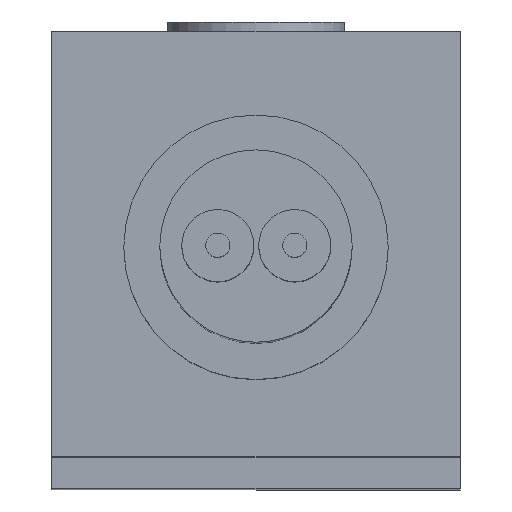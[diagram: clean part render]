
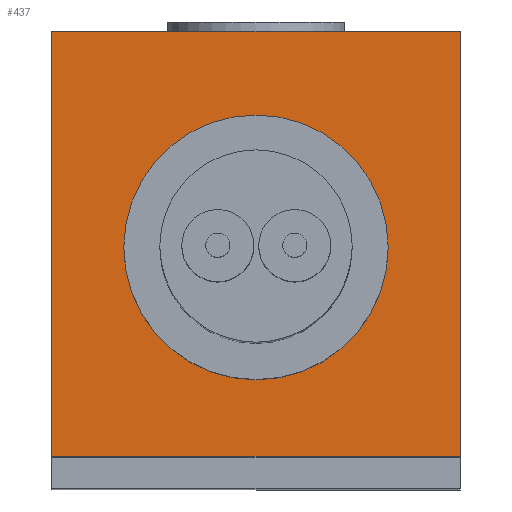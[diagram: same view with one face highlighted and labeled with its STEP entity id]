
A CAD part, top view. The second image highlights one B-rep face of the part: STEP entity #437.
In plain terms, the highlighted planar face has unit normal (0, 0, 1).
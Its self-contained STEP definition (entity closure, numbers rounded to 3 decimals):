
#1 = VERTEX_POINT ( 'NONE', #1093 ) ;
#22 = VECTOR ( 'NONE', #166, 1000. ) ;
#95 = DIRECTION ( 'NONE',  ( -1., 0., 0. ) ) ;
#143 = ORIENTED_EDGE ( 'NONE', *, *, #937, .F. ) ;
#166 = DIRECTION ( 'NONE',  ( 0., 1., 0. ) ) ;
#178 = CARTESIAN_POINT ( 'NONE',  ( 0., 0., -18.5 ) ) ;
#179 = DIRECTION ( 'NONE',  ( -1., 0., 0. ) ) ;
#188 = ORIENTED_EDGE ( 'NONE', *, *, #895, .T. ) ;
#190 = VECTOR ( 'NONE', #497, 1000. ) ;
#210 = EDGE_LOOP ( 'NONE', ( #735, #188 ) ) ;
#293 = CARTESIAN_POINT ( 'NONE',  ( -4.25, -4.35, -18.5 ) ) ;
#303 = AXIS2_PLACEMENT_3D ( 'NONE', #178, #352, #95 ) ;
#344 = EDGE_LOOP ( 'NONE', ( #690, #1032, #769, #143 ) ) ;
#352 = DIRECTION ( 'NONE',  ( 0., 0., -1. ) ) ;
#372 = EDGE_CURVE ( 'NONE', #1105, #786, #873, .T. ) ;
#377 = VECTOR ( 'NONE', #990, 1000. ) ;
#393 = EDGE_CURVE ( 'NONE', #1092, #727, #980, .T. ) ;
#431 = PLANE ( 'NONE',  #883 ) ;
#436 = CARTESIAN_POINT ( 'NONE',  ( 0., 0., -18.5 ) ) ;
#437 = ADVANCED_FACE ( 'NONE', ( #630, #569 ), #431, .F. ) ;
#446 = DIRECTION ( 'NONE',  ( -1., 0., 0. ) ) ;
#458 = CARTESIAN_POINT ( 'NONE',  ( 4.25, -4.35, -18.5 ) ) ;
#468 = EDGE_CURVE ( 'NONE', #1010, #1092, #802, .T. ) ;
#497 = DIRECTION ( 'NONE',  ( 0., -1., 0. ) ) ;
#528 = DIRECTION ( 'NONE',  ( 0., 0., -1. ) ) ;
#569 = FACE_BOUND ( 'NONE', #210, .T. ) ;
#586 = CARTESIAN_POINT ( 'NONE',  ( -2.75, 0., -18.5 ) ) ;
#595 = CARTESIAN_POINT ( 'NONE',  ( -4.25, 4.5, -18.5 ) ) ;
#624 = CIRCLE ( 'NONE', #303, 2.75 ) ;
#630 = FACE_OUTER_BOUND ( 'NONE', #344, .T. ) ;
#690 = ORIENTED_EDGE ( 'NONE', *, *, #393, .F. ) ;
#727 = VERTEX_POINT ( 'NONE', #595 ) ;
#735 = ORIENTED_EDGE ( 'NONE', *, *, #372, .T. ) ;
#769 = ORIENTED_EDGE ( 'NONE', *, *, #795, .F. ) ;
#786 = VERTEX_POINT ( 'NONE', #586 ) ;
#795 = EDGE_CURVE ( 'NONE', #1, #1010, #809, .T. ) ;
#802 = LINE ( 'NONE', #1074, #844 ) ;
#809 = LINE ( 'NONE', #1041, #190 ) ;
#811 = CARTESIAN_POINT ( 'NONE',  ( 4.25, 4.5, -18.5 ) ) ;
#823 = AXIS2_PLACEMENT_3D ( 'NONE', #1048, #1157, #1158 ) ;
#844 = VECTOR ( 'NONE', #179, 1000. ) ;
#873 = CIRCLE ( 'NONE', #823, 2.75 ) ;
#883 = AXIS2_PLACEMENT_3D ( 'NONE', #436, #528, #446 ) ;
#895 = EDGE_CURVE ( 'NONE', #786, #1105, #624, .T. ) ;
#937 = EDGE_CURVE ( 'NONE', #727, #1, #939, .T. ) ;
#939 = LINE ( 'NONE', #811, #377 ) ;
#980 = LINE ( 'NONE', #1061, #22 ) ;
#990 = DIRECTION ( 'NONE',  ( 1., 0., 0. ) ) ;
#1010 = VERTEX_POINT ( 'NONE', #458 ) ;
#1032 = ORIENTED_EDGE ( 'NONE', *, *, #468, .F. ) ;
#1041 = CARTESIAN_POINT ( 'NONE',  ( 4.25, 4.5, -18.5 ) ) ;
#1048 = CARTESIAN_POINT ( 'NONE',  ( 0., 0., -18.5 ) ) ;
#1061 = CARTESIAN_POINT ( 'NONE',  ( -4.25, 4.5, -18.5 ) ) ;
#1074 = CARTESIAN_POINT ( 'NONE',  ( 4.25, -4.35, -18.5 ) ) ;
#1092 = VERTEX_POINT ( 'NONE', #293 ) ;
#1093 = CARTESIAN_POINT ( 'NONE',  ( 4.25, 4.5, -18.5 ) ) ;
#1097 = CARTESIAN_POINT ( 'NONE',  ( 2.75, 0., -18.5 ) ) ;
#1105 = VERTEX_POINT ( 'NONE', #1097 ) ;
#1157 = DIRECTION ( 'NONE',  ( 0., 0., -1. ) ) ;
#1158 = DIRECTION ( 'NONE',  ( -1., 0., 0. ) ) ;
